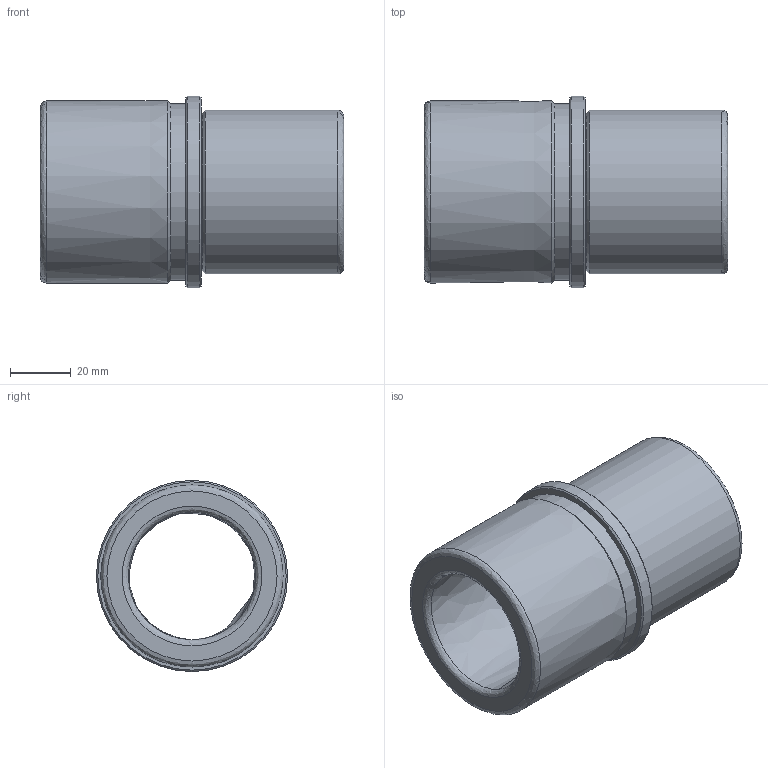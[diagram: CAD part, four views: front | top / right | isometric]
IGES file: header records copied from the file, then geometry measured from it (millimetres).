
Start section: Data from Parasolid IGES Translator 20.0.26, Copyright(c) 2006 Siemens P LM Software. All Rights Reserved.
Global section: file name: WZ - 4051 42 x 100.igs; native system: By Siemens PLM Incorporated; preprocessor: XPlus GENERIC/IGES 20.0.26; author: Noname; organization: Noname; date: 20201204.204238; units: millimetre
Bounding box: 100 x 63 x 63 mm (x, y, z)
Surface area: 34839.8 mm2 (no closed solid volume)
Topology: 0 solids, 0 shells, 21 faces, 82 edges, 61 vertices
Faces by surface type: revolution 16, extrusion 5
